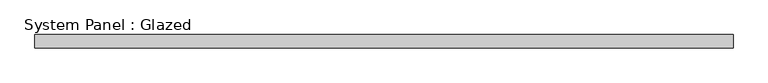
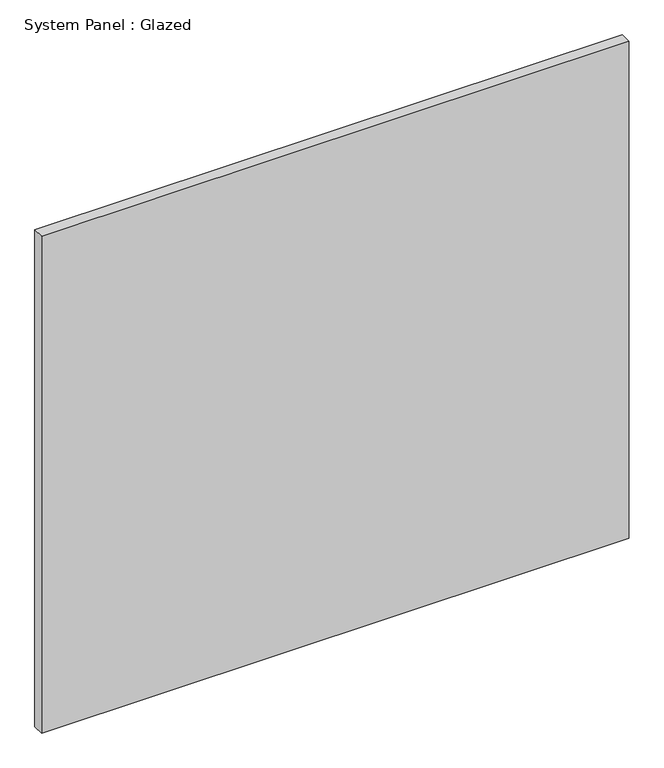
"""IFC4 building model written with IfcOpenShell, lengths in millimetres: plate geometry, System Panel : Glazed."""

from ifc_helpers import new_model, si_unit, origin, origin_with_axes, place, context, project, spatial, polyline, outline, extrude, source, transform, mapped, element, save


def system_panel_glazed_4108eabc(model_context):
    return source(origin(), model_context, "Body", "SweptSolid", [
        extrude(outline(polyline([(643.3333333, 24.5), (-643.3333333, 24.5), (-643.3333333, 49.5), (643.3333333, 49.5), (643.3333333, 24.5)])), origin_with_axes(), (0.0, 0.0, 1.0), 1150.0),
    ])


if __name__ == "__main__":
    model = new_model("IFC4")
    model_context = context("Model", 3, world=origin())
    ifc_project = project(units=[si_unit("LENGTHUNIT", "METRE", prefix="MILLI")], contexts=[model_context])
    site = spatial("IfcSite", under=ifc_project)
    building = spatial("IfcBuilding", under=site)
    placement = place(None, origin())
    system_panel_glazed_shape = system_panel_glazed_4108eabc(model_context)
    element("IfcPlate", 1, ObjectType="System Panel : Glazed", at=placement, inside=building, context=model_context, shape_type="MappedRepresentation", body=[
        mapped(system_panel_glazed_shape, transform((0.0, 0.0, 0.0), x_axis=(1.0, 0.0, 0.0), y_axis=(0.0, 1.0, 0.0), z_axis=(0.0, 0.0, 1.0))),
    ])
    save(model, "model.ifc")
